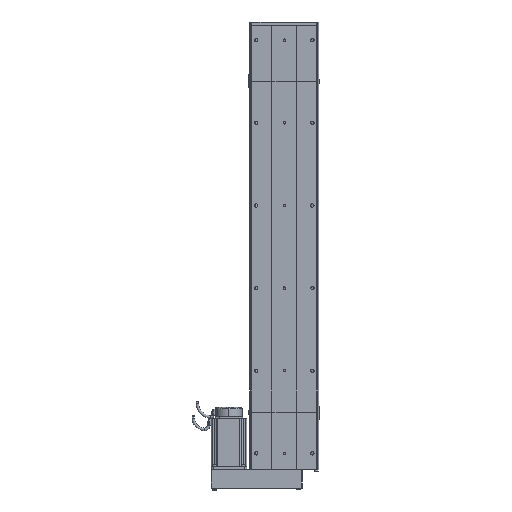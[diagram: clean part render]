
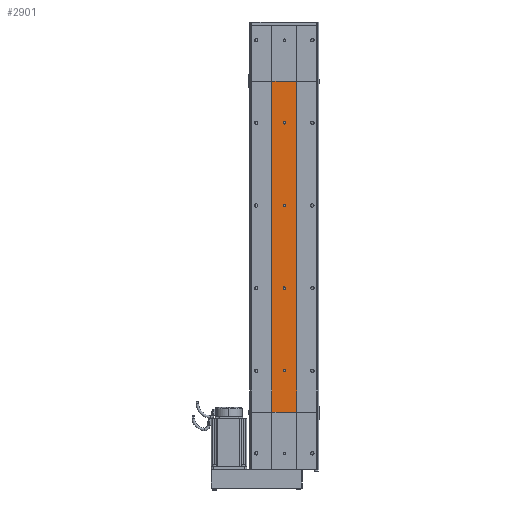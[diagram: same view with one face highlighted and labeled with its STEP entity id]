
A CAD part, front view. The second image highlights one B-rep face of the part: STEP entity #2901.
In plain terms, the highlighted planar face has unit normal (0, -1, 0).
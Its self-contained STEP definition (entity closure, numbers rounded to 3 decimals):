
#1170 = VERTEX_POINT ( 'NONE', #8649 ) ;
#1572 = EDGE_CURVE ( 'NONE', #1170, #1575, #10043, .T. ) ;
#1575 = VERTEX_POINT ( 'NONE', #8895 ) ;
#2093 = EDGE_CURVE ( 'NONE', #2358, #2215, #16524, .T. ) ;
#2215 = VERTEX_POINT ( 'NONE', #16806 ) ;
#2358 = VERTEX_POINT ( 'NONE', #19265 ) ;
#2856 = EDGE_CURVE ( 'NONE', #2215, #1575, #27027, .T. ) ;
#2858 = ORIENTED_EDGE ( 'NONE', *, *, #2903, .F. ) ;
#2861 = ORIENTED_EDGE ( 'NONE', *, *, #3030, .T. ) ;
#2862 = ORIENTED_EDGE ( 'NONE', *, *, #2093, .F. ) ;
#2889 = ORIENTED_EDGE ( 'NONE', *, *, #2890, .F. ) ;
#2890 = EDGE_CURVE ( 'NONE', #71709, #71645, #29435, .T. ) ;
#2891 = EDGE_LOOP ( 'NONE', ( #2892, #3375 ) ) ;
#2892 = ORIENTED_EDGE ( 'NONE', *, *, #3373, .F. ) ;
#2901 = ADVANCED_FACE ( 'NONE', ( #32029, #31903, #31962, #31967, #31914 ), #29421, .F. ) ;
#2902 = ORIENTED_EDGE ( 'NONE', *, *, #71655, .F. ) ;
#2903 = EDGE_CURVE ( 'NONE', #71646, #71653, #32017, .T. ) ;
#2928 = EDGE_LOOP ( 'NONE', ( #2980, #3013 ) ) ;
#2939 = EDGE_LOOP ( 'NONE', ( #3374, #3028, #2862, #2861 ) ) ;
#2980 = ORIENTED_EDGE ( 'NONE', *, *, #3311, .F. ) ;
#2981 = EDGE_LOOP ( 'NONE', ( #2858, #2902 ) ) ;
#3005 = EDGE_LOOP ( 'NONE', ( #2889, #3310 ) ) ;
#3013 = ORIENTED_EDGE ( 'NONE', *, *, #71639, .F. ) ;
#3028 = ORIENTED_EDGE ( 'NONE', *, *, #2856, .F. ) ;
#3030 = EDGE_CURVE ( 'NONE', #2358, #1170, #5478, .T. ) ;
#3310 = ORIENTED_EDGE ( 'NONE', *, *, #71711, .F. ) ;
#3311 = EDGE_CURVE ( 'NONE', #71659, #71668, #5990, .T. ) ;
#3373 = EDGE_CURVE ( 'NONE', #71907, #71903, #5884, .T. ) ;
#3374 = ORIENTED_EDGE ( 'NONE', *, *, #1572, .T. ) ;
#3375 = ORIENTED_EDGE ( 'NONE', *, *, #71848, .F. ) ;
#5176 = DIRECTION ( 'NONE',  ( 0., 0., 1. ) ) ;
#5230 = AXIS2_PLACEMENT_3D ( 'NONE', #5687, #5649, #6179 ) ;
#5396 = VECTOR ( 'NONE', #5176, 1000. ) ;
#5478 = LINE ( 'NONE', #5529, #5396 ) ;
#5529 = CARTESIAN_POINT ( 'NONE',  ( 30., -32.5, 0. ) ) ;
#5649 = DIRECTION ( 'NONE',  ( 0., -1., 0. ) ) ;
#5687 = CARTESIAN_POINT ( 'NONE',  ( 0., -32.5, 100. ) ) ;
#5819 = DIRECTION ( 'NONE',  ( 0., 0., -1. ) ) ;
#5884 = CIRCLE ( 'NONE', #5230, 3. ) ;
#5945 = AXIS2_PLACEMENT_3D ( 'NONE', #6006, #5987, #5819 ) ;
#5987 = DIRECTION ( 'NONE',  ( 0., -1., 0. ) ) ;
#5990 = CIRCLE ( 'NONE', #5945, 3. ) ;
#6006 = CARTESIAN_POINT ( 'NONE',  ( 0., -32.5, 300. ) ) ;
#6179 = DIRECTION ( 'NONE',  ( 0., 0., -1. ) ) ;
#8649 = CARTESIAN_POINT ( 'NONE',  ( 30., -32.5, 800. ) ) ;
#8895 = CARTESIAN_POINT ( 'NONE',  ( -30., -32.5, 800. ) ) ;
#10040 = DIRECTION ( 'NONE',  ( -1., 0., 0. ) ) ;
#10041 = VECTOR ( 'NONE', #10040, 1000. ) ;
#10042 = CARTESIAN_POINT ( 'NONE',  ( -30., -32.5, 800. ) ) ;
#10043 = LINE ( 'NONE', #10042, #10041 ) ;
#16519 = DIRECTION ( 'NONE',  ( -1., 0., 0. ) ) ;
#16520 = VECTOR ( 'NONE', #16519, 1000. ) ;
#16523 = CARTESIAN_POINT ( 'NONE',  ( -30., -32.5, 0. ) ) ;
#16524 = LINE ( 'NONE', #16523, #16520 ) ;
#16806 = CARTESIAN_POINT ( 'NONE',  ( -30., -32.5, 0. ) ) ;
#19265 = CARTESIAN_POINT ( 'NONE',  ( 30., -32.5, 0. ) ) ;
#27027 = LINE ( 'NONE', #27194, #27140 ) ;
#27060 = DIRECTION ( 'NONE',  ( 0., 0., -1. ) ) ;
#27140 = VECTOR ( 'NONE', #27176, 1000. ) ;
#27176 = DIRECTION ( 'NONE',  ( 0., 0., 1. ) ) ;
#27194 = CARTESIAN_POINT ( 'NONE',  ( -30., -32.5, 0. ) ) ;
#29358 = DIRECTION ( 'NONE',  ( 0., 0., 1. ) ) ;
#29359 = DIRECTION ( 'NONE',  ( 0., 1., 0. ) ) ;
#29365 = DIRECTION ( 'NONE',  ( 0., 0., -1. ) ) ;
#29366 = DIRECTION ( 'NONE',  ( 0., -1., 0. ) ) ;
#29367 = CARTESIAN_POINT ( 'NONE',  ( 0., -32.5, 500. ) ) ;
#29421 = PLANE ( 'NONE',  #29478 ) ;
#29425 = CARTESIAN_POINT ( 'NONE',  ( -30., -32.5, 0. ) ) ;
#29427 = AXIS2_PLACEMENT_3D ( 'NONE', #29367, #29366, #29365 ) ;
#29435 = CIRCLE ( 'NONE', #29427, 3. ) ;
#29478 = AXIS2_PLACEMENT_3D ( 'NONE', #29425, #29359, #29358 ) ;
#31902 = DIRECTION ( 'NONE',  ( 0., -1., 0. ) ) ;
#31903 = FACE_BOUND ( 'NONE', #3005, .T. ) ;
#31914 = FACE_OUTER_BOUND ( 'NONE', #2939, .T. ) ;
#31961 = CARTESIAN_POINT ( 'NONE',  ( 0., -32.5, 700. ) ) ;
#31962 = FACE_BOUND ( 'NONE', #2928, .T. ) ;
#31967 = FACE_BOUND ( 'NONE', #2891, .T. ) ;
#32016 = AXIS2_PLACEMENT_3D ( 'NONE', #31961, #31902, #27060 ) ;
#32017 = CIRCLE ( 'NONE', #32016, 3. ) ;
#32029 = FACE_BOUND ( 'NONE', #2981, .T. ) ;
#60632 = CARTESIAN_POINT ( 'NONE',  ( 0., -32.5, 703. ) ) ;
#60637 = CARTESIAN_POINT ( 'NONE',  ( 0., -32.5, 503. ) ) ;
#60643 = CARTESIAN_POINT ( 'NONE',  ( 0., -32.5, 697. ) ) ;
#60645 = DIRECTION ( 'NONE',  ( 0., 0., -1. ) ) ;
#60646 = DIRECTION ( 'NONE',  ( 0., -1., 0. ) ) ;
#60647 = AXIS2_PLACEMENT_3D ( 'NONE', #60657, #60646, #60645 ) ;
#60648 = CIRCLE ( 'NONE', #60647, 3. ) ;
#60657 = CARTESIAN_POINT ( 'NONE',  ( 0., -32.5, 300. ) ) ;
#60675 = CARTESIAN_POINT ( 'NONE',  ( 0., -32.5, 297. ) ) ;
#60676 = CARTESIAN_POINT ( 'NONE',  ( 0., -32.5, 303. ) ) ;
#60682 = DIRECTION ( 'NONE',  ( 0., 0., -1. ) ) ;
#60683 = DIRECTION ( 'NONE',  ( 0., -1., 0. ) ) ;
#60684 = AXIS2_PLACEMENT_3D ( 'NONE', #60687, #60683, #60682 ) ;
#60687 = CARTESIAN_POINT ( 'NONE',  ( 0., -32.5, 700. ) ) ;
#60688 = CIRCLE ( 'NONE', #60684, 3. ) ;
#60772 = DIRECTION ( 'NONE',  ( 0., 0., -1. ) ) ;
#60773 = DIRECTION ( 'NONE',  ( 0., -1., 0. ) ) ;
#60774 = AXIS2_PLACEMENT_3D ( 'NONE', #60780, #60773, #60772 ) ;
#60775 = CIRCLE ( 'NONE', #60774, 3. ) ;
#60776 = CARTESIAN_POINT ( 'NONE',  ( 0., -32.5, 497. ) ) ;
#60780 = CARTESIAN_POINT ( 'NONE',  ( 0., -32.5, 500. ) ) ;
#61081 = DIRECTION ( 'NONE',  ( 0., 0., -1. ) ) ;
#61082 = DIRECTION ( 'NONE',  ( 0., -1., 0. ) ) ;
#61093 = AXIS2_PLACEMENT_3D ( 'NONE', #61099, #61082, #61081 ) ;
#61094 = CIRCLE ( 'NONE', #61093, 3. ) ;
#61099 = CARTESIAN_POINT ( 'NONE',  ( 0., -32.5, 100. ) ) ;
#61207 = CARTESIAN_POINT ( 'NONE',  ( 0., -32.5, 97. ) ) ;
#61219 = CARTESIAN_POINT ( 'NONE',  ( 0., -32.5, 103. ) ) ;
#71639 = EDGE_CURVE ( 'NONE', #71668, #71659, #60648, .T. ) ;
#71645 = VERTEX_POINT ( 'NONE', #60637 ) ;
#71646 = VERTEX_POINT ( 'NONE', #60643 ) ;
#71653 = VERTEX_POINT ( 'NONE', #60632 ) ;
#71655 = EDGE_CURVE ( 'NONE', #71653, #71646, #60688, .T. ) ;
#71659 = VERTEX_POINT ( 'NONE', #60675 ) ;
#71668 = VERTEX_POINT ( 'NONE', #60676 ) ;
#71709 = VERTEX_POINT ( 'NONE', #60776 ) ;
#71711 = EDGE_CURVE ( 'NONE', #71645, #71709, #60775, .T. ) ;
#71848 = EDGE_CURVE ( 'NONE', #71903, #71907, #61094, .T. ) ;
#71903 = VERTEX_POINT ( 'NONE', #61219 ) ;
#71907 = VERTEX_POINT ( 'NONE', #61207 ) ;
